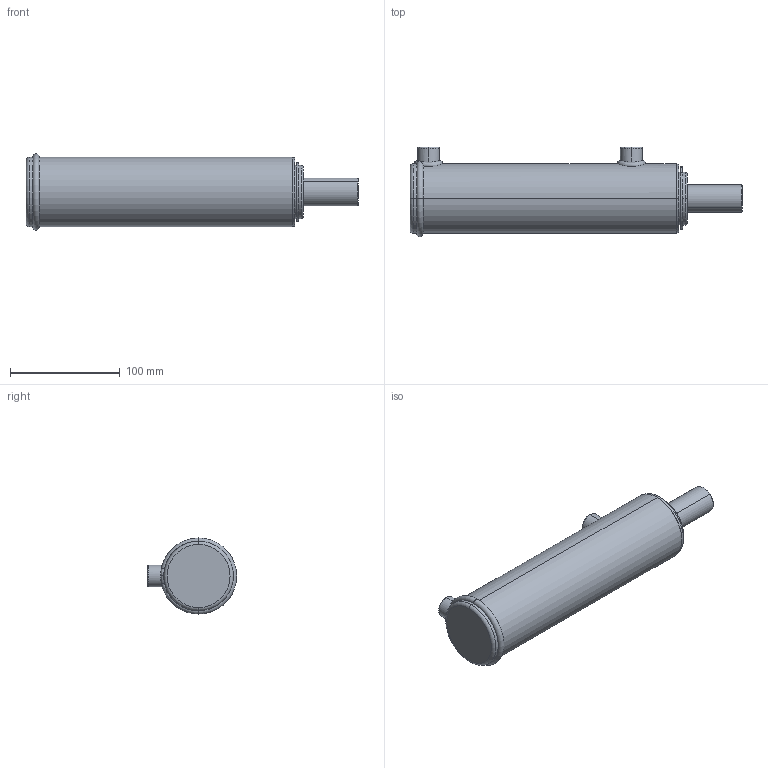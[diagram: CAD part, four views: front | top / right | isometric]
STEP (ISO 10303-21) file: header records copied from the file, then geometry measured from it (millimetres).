
FILE_DESCRIPTION (( 'STEP AP203' ), '1' );
FILE_NAME ('BL200100x152 (6).STEP', '2014-11-23T20:30:09', ( '' ), ( '' ), 'SwSTEP 2.0', 'SolidWorks 2014', '' );
FILE_SCHEMA (( 'CONFIG_CONTROL_DESIGN' ));
Length unit declared in the file: millimetre
Products named in the file (3): BL200100x152 (6); BL body 2_2x6; Spare_2x6
Assembly tree (2 placements, depth 2):
  BL200100x152 (6)
    BL body 2_2x6
    Spare_2x6
Bounding box: 303 x 81.5 x 69.5 mm (x, y, z)
Volume: 826730.5 mm3; surface area: 105905.8 mm2
Topology: 2 solids, 2 shells, 83 faces, 192 edges, 118 vertices
Faces by surface type: cylinder 31, plane 20, torus 17, cone 8, bspline 7
Entity records: 4855 total; most frequent: CARTESIAN_POINT 2688, DIRECTION 416, ORIENTED_EDGE 376, EDGE_CURVE 188, AXIS2_PLACEMENT_3D 179, VERTEX_POINT 118, CIRCLE 98, EDGE_LOOP 96
